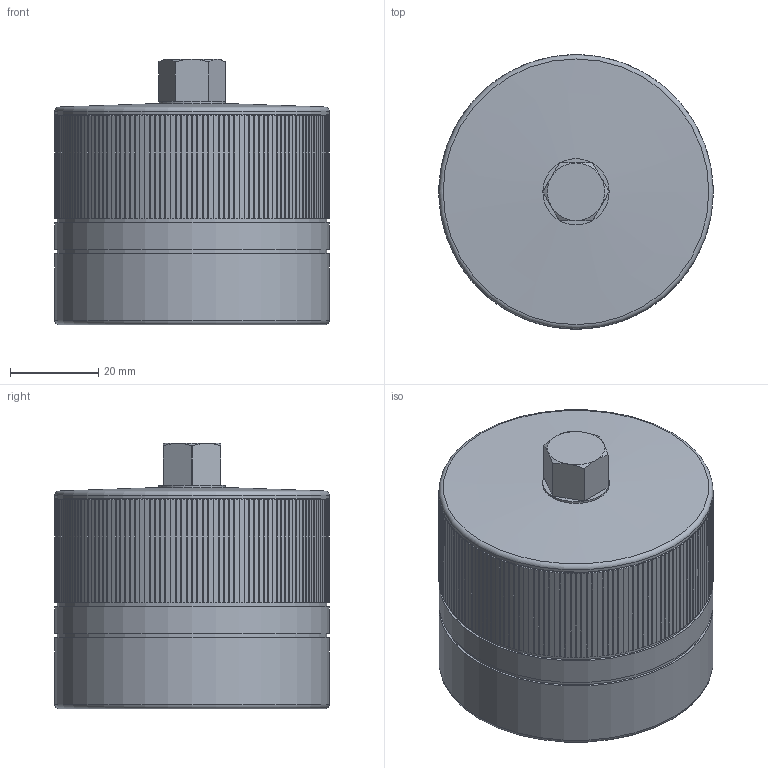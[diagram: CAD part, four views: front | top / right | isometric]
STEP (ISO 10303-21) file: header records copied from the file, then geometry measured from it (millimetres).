
FILE_DESCRIPTION( ( 'Unknown' ), '1' );
FILE_NAME( 'F:/JAKOB-STEP+IGES-Dateien/STEP-Dateien/MCA/MCA 60 - M12.stp', 'Unknown', ( 'Unknown' ), ( 'Unknown' ), 'XStep 1.0', 'Unknown', ' ' );
FILE_SCHEMA( ( 'CONFIG_CONTROL_DESIGN' ) );
Length unit declared in the file: millimetre
Products named in the file (1): 1
Bounding box: 62 x 62 x 60 mm (x, y, z)
Volume: 147933.1 mm3; surface area: 17555.1 mm2
Topology: 1 solids, 1 shells, 360 faces, 1043 edges, 692 vertices
Faces by surface type: cylinder 327, plane 21, cone 10, torus 2
Full cylindrical faces by diameter (mm): 10.2 x1, 15 x1, 61 x2, 62 x3
Entity records: 13220 total; most frequent: CARTESIAN_POINT 3585, DIRECTION 2094, ORIENTED_EDGE 2054, EDGE_CURVE 1027, AXIS2_PLACEMENT_3D 878, VERTEX_POINT 689, CIRCLE 517, EDGE_LOOP 380
